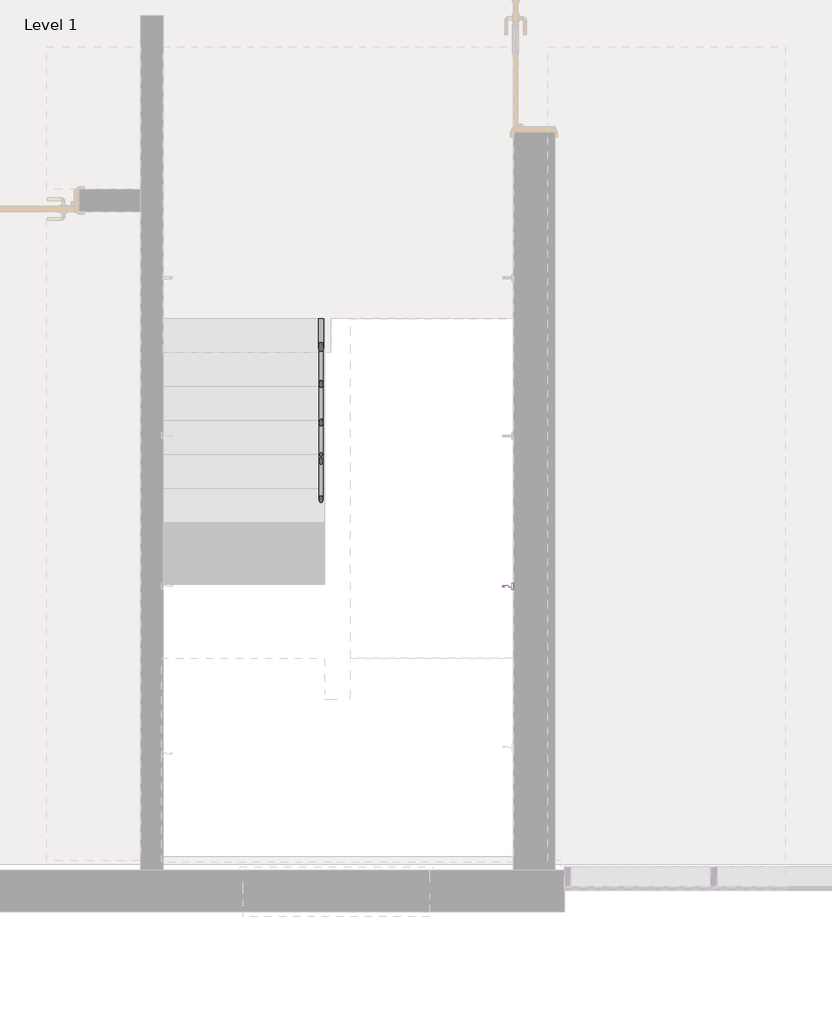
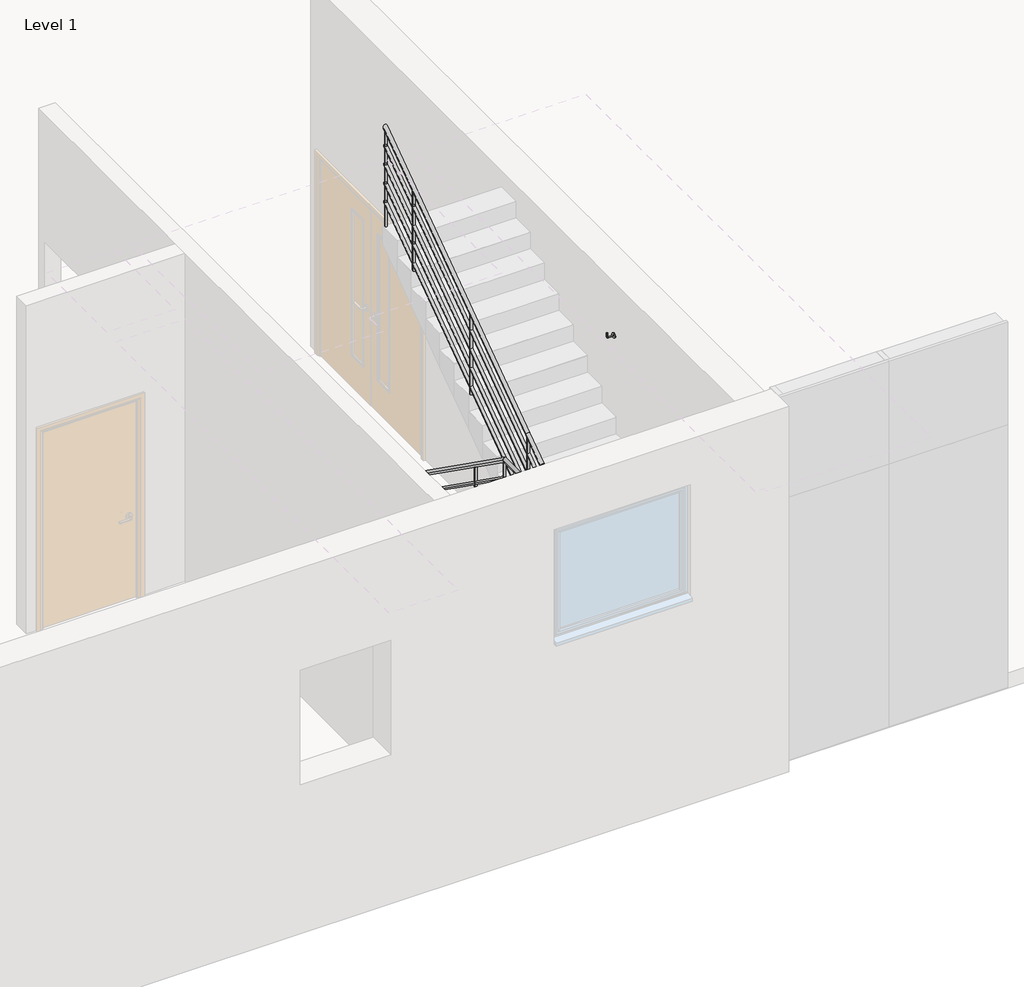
# One storey, part 9 of 12: 1 proxy, 1 railing.
"""IFC4 building model written with IfcOpenShell, lengths in millimetres."""

from ifc_helpers import new_model, si_unit, point, frame, frame_2d, origin, place, context, project, spatial, circle_curve, ellipse_curve, trimmed, segment, composite_curve, outline, extrude, transform, mapped, element, save
from ifc_brep_helpers import plane_surface, cylinder_surface, advanced_brep
from components import support_metal_circular_support_metal_circular_016e83f0

model = new_model("IFC4")

# Units and contexts
model_context = context("Model", 3, world=origin())
ifc_project = project(units=[si_unit("LENGTHUNIT", "METRE", prefix="MILLI")], contexts=[model_context])

# Site, building, storey
site = spatial("IfcSite", under=ifc_project)
building = spatial("IfcBuilding", under=site)
storey = spatial("IfcBuildingStorey", under=building, Name="Level 1", Elevation=3900.0)

# Proxy
placement = place(None, origin())
support_metal_circular_support_metal_circular_shape = support_metal_circular_support_metal_circular_016e83f0(model_context)
element("IfcBuildingElementProxy", 1, Name="Support - Metal - Circular : Support - Metal - Circular", ObjectType="Support - Metal - Circular : Support - Metal - Circular", at=placement, inside=storey, context=model_context, shape_type="MappedRepresentation", body=[
    mapped(support_metal_circular_support_metal_circular_shape, transform((7761.8000024, 2330.7111848, 7286.0952038), x_axis=(0.0, -1.0, 0.0), y_axis=(1.0, 0.0, 0.0), z_axis=(0.0, 0.0, 1.0))),
])

# Railing
element("IfcRailing", 2, ObjectType="900mm_Pipe", at=placement, inside=storey, context=model_context, shape_type="SolidModel", body=[
    advanced_brep(
    [(6401.8000025, 4300.0, 4952.7548977), (6441.8000025, 4300.0, 4952.7548977), (6401.8000025, 1793.6287019, 6730.0), (6441.8000025, 1793.6287019, 6730.0), (6401.8000025, 1454.6, 6730.0), (6441.8000025, 1494.6, 6730.0), (6682.6000026, 1454.6, 6730.0), (6642.6000026, 1494.6, 6730.0), (6682.6000026, 1556.3712981, 6730.0), (6642.6000026, 1556.3712981, 6730.0), (6682.6000026, 1811.5685755, 6910.9580695), (6642.6000026, 1811.5685755, 6910.9580695), (6682.6000026, 4300.0, 8675.4821704), (6642.6000026, 4300.0, 8675.4821704)],
    [
        (0, 1, ellipse_curve(frame((6421.8000025, 4300.0, 4952.7548977), z_axis=(0.0, 1.0, 0.0), x_axis=(0.0, 0.0, -1.0)), 24.5178296, 20.0)),
        (1, 0, ellipse_curve(frame((6421.8000025, 4300.0, 4952.7548977), z_axis=(0.0, 1.0, 0.0), x_axis=(0.0, 0.0, -1.0)), 24.5178296, 20.0)),
        (0, 2),
        (2, 3, ellipse_curve(frame((6421.8000025, 1793.6287019, 6730.0), z_axis=(0.0, 0.9528202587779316, -0.30353509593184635), x_axis=(0.0, -0.30353509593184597, -0.9528202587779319)), 20.9903178, 20.0)),
        (3, 1),
        (3, 2, ellipse_curve(frame((6421.8000025, 1793.6287019, 6730.0), z_axis=(0.0, 0.9528202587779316, -0.30353509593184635), x_axis=(0.0, -0.30353509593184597, -0.9528202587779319)), 20.9903178, 20.0)),
        (2, 4),
        (4, 5, ellipse_curve(frame((6421.8000025, 1474.6, 6730.0), z_axis=(-0.7071067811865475, 0.7071067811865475, 0.0), x_axis=(0.7071067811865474, 0.7071067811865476, 0.0)), 28.2842712, 20.0)),
        (5, 3),
        (5, 4, ellipse_curve(frame((6421.8000025, 1474.6, 6730.0), z_axis=(-0.7071067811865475, 0.7071067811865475, 0.0), x_axis=(0.7071067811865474, 0.7071067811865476, 0.0)), 28.2842712, 20.0)),
        (4, 6),
        (6, 7, ellipse_curve(frame((6662.6000026, 1474.6, 6730.0), z_axis=(-0.7071067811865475, -0.7071067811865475, 0.0), x_axis=(-0.7071067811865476, 0.7071067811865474, 0.0)), 28.2842712, 20.0)),
        (7, 5),
        (7, 6, ellipse_curve(frame((6662.6000026, 1474.6, 6730.0), z_axis=(-0.7071067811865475, -0.7071067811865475, 0.0), x_axis=(-0.7071067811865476, 0.7071067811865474, 0.0)), 28.2842712, 20.0)),
        (6, 8),
        (8, 9, ellipse_curve(frame((6662.6000026, 1556.3712981, 6730.0), z_axis=(0.0, -0.9528202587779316, -0.3035350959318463), x_axis=(0.0, -0.3035350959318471, 0.9528202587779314)), 20.9903178, 20.0)),
        (9, 7),
        (9, 8, ellipse_curve(frame((6662.6000026, 1556.3712981, 6730.0), z_axis=(0.0, -0.9528202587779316, -0.3035350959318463), x_axis=(0.0, -0.3035350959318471, 0.9528202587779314)), 20.9903178, 20.0)),
        (8, 10),
        (10, 11, circle_curve(frame((6662.6000026, 1811.5685755, 6910.9580695), z_axis=(0.0, -0.8157328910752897, -0.5784287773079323), x_axis=(-1.0, 0.0, 0.0)), 20.0)),
        (11, 9),
        (11, 10, circle_curve(frame((6662.6000026, 1811.5685755, 6910.9580695), z_axis=(0.0, -0.8157328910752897, -0.5784287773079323), x_axis=(-1.0, 0.0, 0.0)), 20.0)),
        (12, 13, ellipse_curve(frame((6662.6000026, 4300.0, 8675.4821704), z_axis=(0.0, 1.0, 0.0), x_axis=(0.0, 0.0, -1.0)), 24.5178296, 20.0)),
        (13, 12, ellipse_curve(frame((6662.6000026, 4300.0, 8675.4821704), z_axis=(0.0, 1.0, 0.0), x_axis=(0.0, 0.0, -1.0)), 24.5178296, 20.0)),
        (10, 12),
        (13, 11),
    ],
    [
        plane_surface(frame((6421.8000025, 4300.0, 4977.2727273), z_axis=(0.0, 1.0, 0.0), x_axis=(0.0, 0.0, -1.0))),
        cylinder_surface(frame((6421.8000025, 4288.4314245, 4960.9580695), z_axis=(0.0, 0.8157328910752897, -0.5784287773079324), x_axis=(1.0, 0.0, 0.0)), 20.0),
        cylinder_surface(frame((6421.8000025, 1800.0, 6730.0), z_axis=(0.0, 1.0, 0.0), x_axis=(1.0, 0.0, 0.0)), 20.0),
        cylinder_surface(frame((6421.8000025, 1474.6, 6730.0), z_axis=(-1.0, 0.0, 0.0), x_axis=(0.0, 1.0, 0.0)), 20.0),
        cylinder_surface(frame((6662.6000026, 1474.6, 6730.0), z_axis=(0.0, -1.0, 0.0), x_axis=(-1.0, 0.0, 0.0)), 20.0),
        cylinder_surface(frame((6662.6000026, 1561.5685755, 6733.6853422), z_axis=(0.0, -0.8157328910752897, -0.5784287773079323), x_axis=(-1.0, 0.0, 0.0)), 20.0),
        plane_surface(frame((6662.6000026, 4300.0, 8700.0), z_axis=(0.0, 1.0, 0.0), x_axis=(0.0, 0.0, 1.0))),
        cylinder_surface(frame((6662.6000026, 1811.5685755, 6910.9580695), z_axis=(0.0, -0.8157328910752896, -0.5784287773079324), x_axis=(-1.0, 0.0, 0.0)), 20.0),
    ],
    [
        (0, [[1, 2]]),
        (1, [[-1, 3, 4, 5]]),
        (1, [[-2, -5, 6, -3]]),
        (2, [[-4, 7, 8, 9]]),
        (2, [[-6, -9, 10, -7]]),
        (3, [[-8, 11, 12, 13]]),
        (3, [[-10, -13, 14, -11]]),
        (4, [[-12, 15, 16, 17]]),
        (4, [[-14, -17, 18, -15]]),
        (5, [[-16, 19, 20, 21]]),
        (5, [[-18, -21, 22, -19]]),
        (6, [[23, 24]]),
        (7, [[-20, 25, -24, 26]]),
        (7, [[-22, -26, -23, -25]]),
    ],
),
    advanced_brep(
    [(6406.8000025, 4300.0, 4758.8843551), (6436.8000025, 4300.0, 4758.8843551), (6406.8000025, 1800.0, 6531.6116278), (6436.8000025, 1800.0, 6531.6116278)],
    [
        (0, 1, ellipse_curve(frame((6421.8000025, 4300.0, 4758.8843551), z_axis=(0.0, 1.0, 0.0), x_axis=(0.0, 0.0, -1.0)), 18.3883722, 15.0)),
        (1, 0, ellipse_curve(frame((6421.8000025, 4300.0, 4758.8843551), z_axis=(0.0, 1.0, 0.0), x_axis=(0.0, 0.0, -1.0)), 18.3883722, 15.0)),
        (2, 3, ellipse_curve(frame((6421.8000025, 1800.0, 6531.6116278), z_axis=(0.0, -1.0, 0.0), x_axis=(0.0, 0.0, -1.0)), 18.3883722, 15.0)),
        (3, 2, ellipse_curve(frame((6421.8000025, 1800.0, 6531.6116278), z_axis=(0.0, -1.0, 0.0), x_axis=(0.0, 0.0, -1.0)), 18.3883722, 15.0)),
        (0, 2),
        (3, 1),
    ],
    [
        plane_surface(frame((6421.8000025, 4300.0, 4777.2727273), z_axis=(0.0, 1.0, 0.0), x_axis=(0.0, 0.0, -1.0))),
        plane_surface(frame((6421.8000025, 1800.0, 6550.0), z_axis=(0.0, -1.0, 0.0), x_axis=(0.0, 0.0, -1.0))),
        cylinder_surface(frame((6421.8000025, 4291.3235683, 4765.0367339), z_axis=(0.0, 0.8157328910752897, -0.5784287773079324), x_axis=(1.0, 0.0, 0.0)), 15.0),
    ],
    [
        (0, [[1, 2]]),
        (1, [[3, 4]]),
        (2, [[-1, 5, -4, 6]]),
        (2, [[-2, -6, -3, -5]]),
    ],
),
    advanced_brep(
    [(6406.8000025, 1800.0, 6535.0), (6436.8000025, 1800.0, 6535.0), (6406.8000025, 1489.6, 6535.0), (6436.8000025, 1489.6, 6535.0)],
    [
        (0, 1, circle_curve(frame((6421.8000025, 1800.0, 6535.0), z_axis=(0.0, 1.0, 0.0), x_axis=(1.0, 0.0, 0.0)), 15.0)),
        (1, 0, circle_curve(frame((6421.8000025, 1800.0, 6535.0), z_axis=(0.0, 1.0, 0.0), x_axis=(1.0, 0.0, 0.0)), 15.0)),
        (2, 3, circle_curve(frame((6421.8000025, 1489.6, 6535.0), z_axis=(0.0, -1.0, 0.0), x_axis=(1.0, 0.0, 0.0)), 15.0)),
        (3, 2, circle_curve(frame((6421.8000025, 1489.6, 6535.0), z_axis=(0.0, -1.0, 0.0), x_axis=(1.0, 0.0, 0.0)), 15.0)),
        (0, 2),
        (3, 1),
    ],
    [
        plane_surface(frame((6421.8000025, 1800.0, 6550.0), z_axis=(0.0, 1.0, 0.0), x_axis=(0.0, 0.0, -1.0))),
        plane_surface(frame((6421.8000025, 1489.6, 6550.0), z_axis=(0.0, -1.0, 0.0), x_axis=(0.0, 0.0, -1.0))),
        cylinder_surface(frame((6421.8000025, 1800.0, 6535.0), z_axis=(0.0, 1.0, 0.0), x_axis=(1.0, 0.0, 0.0)), 15.0),
    ],
    [
        (0, [[1, 2]]),
        (1, [[3, 4]]),
        (2, [[-1, 5, -4, 6]]),
        (2, [[-2, -6, -3, -5]]),
    ],
),
    advanced_brep(
    [(6406.8000025, 1459.6, 6535.0), (6406.8000025, 1489.6, 6535.0), (6647.6000026, 1459.6, 6535.0), (6647.6000026, 1489.6, 6535.0)],
    [
        (0, 1, circle_curve(frame((6406.8000025, 1474.6, 6535.0), z_axis=(-1.0, 0.0, 0.0), x_axis=(0.0, 1.0, 0.0)), 15.0)),
        (1, 0, circle_curve(frame((6406.8000025, 1474.6, 6535.0), z_axis=(-1.0, 0.0, 0.0), x_axis=(0.0, 1.0, 0.0)), 15.0)),
        (2, 3, circle_curve(frame((6647.6000026, 1474.6, 6535.0), z_axis=(1.0, 0.0, 0.0), x_axis=(0.0, 1.0, 0.0)), 15.0)),
        (3, 2, circle_curve(frame((6647.6000026, 1474.6, 6535.0), z_axis=(1.0, 0.0, 0.0), x_axis=(0.0, 1.0, 0.0)), 15.0)),
        (0, 2),
        (3, 1),
    ],
    [
        plane_surface(frame((6406.8000025, 1474.6, 6550.0), z_axis=(-1.0, 0.0, 0.0), x_axis=(0.0, 1.0, 0.0))),
        plane_surface(frame((6647.6000026, 1474.6, 6550.0), z_axis=(1.0, 0.0, 0.0), x_axis=(0.0, 1.0, 0.0))),
        cylinder_surface(frame((6406.8000025, 1474.6, 6535.0), z_axis=(-1.0, 0.0, 0.0), x_axis=(0.0, 1.0, 0.0)), 15.0),
    ],
    [
        (0, [[1, 2]]),
        (1, [[3, 4]]),
        (2, [[-1, 5, -4, 6]]),
        (2, [[-2, -6, -3, -5]]),
    ],
),
    advanced_brep(
    [(6677.6000026, 1459.6, 6535.0), (6647.6000026, 1459.6, 6535.0), (6677.6000026, 1554.7784736, 6535.0), (6647.6000026, 1554.7784736, 6535.0), (6677.6000026, 1800.0, 6708.8843551), (6647.6000026, 1800.0, 6708.8843551)],
    [
        (0, 1, circle_curve(frame((6662.6000026, 1459.6, 6535.0), z_axis=(0.0, -1.0, 0.0), x_axis=(-1.0, 0.0, 0.0)), 15.0)),
        (1, 0, circle_curve(frame((6662.6000026, 1459.6, 6535.0), z_axis=(0.0, -1.0, 0.0), x_axis=(-1.0, 0.0, 0.0)), 15.0)),
        (0, 2),
        (2, 3, ellipse_curve(frame((6662.6000026, 1554.7784736, 6535.0), z_axis=(0.0, -0.9528202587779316, -0.3035350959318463), x_axis=(0.0, -0.3035350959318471, 0.9528202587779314)), 15.7427383, 15.0)),
        (3, 1),
        (3, 2, ellipse_curve(frame((6662.6000026, 1554.7784736, 6535.0), z_axis=(0.0, -0.9528202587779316, -0.3035350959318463), x_axis=(0.0, -0.3035350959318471, 0.9528202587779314)), 15.7427383, 15.0)),
        (4, 5, ellipse_curve(frame((6662.6000026, 1800.0, 6708.8843551), z_axis=(0.0, 1.0, 0.0), x_axis=(0.0, 0.0, -1.0)), 18.3883722, 15.0)),
        (5, 4, ellipse_curve(frame((6662.6000026, 1800.0, 6708.8843551), z_axis=(0.0, 1.0, 0.0), x_axis=(0.0, 0.0, -1.0)), 18.3883722, 15.0)),
        (2, 4),
        (5, 3),
    ],
    [
        plane_surface(frame((6662.6000026, 1459.6, 6550.0), z_axis=(0.0, -1.0, 0.0), x_axis=(0.0, 0.0, 1.0))),
        cylinder_surface(frame((6662.6000026, 1459.6, 6535.0), z_axis=(0.0, -1.0, 0.0), x_axis=(-1.0, 0.0, 0.0)), 15.0),
        plane_surface(frame((6662.6000026, 1800.0, 6727.2727273), z_axis=(0.0, 1.0, 0.0), x_axis=(0.0, 0.0, 1.0))),
        cylinder_surface(frame((6662.6000026, 1558.6764317, 6537.7640066), z_axis=(0.0, -0.8157328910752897, -0.5784287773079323), x_axis=(-1.0, 0.0, 0.0)), 15.0),
    ],
    [
        (0, [[1, 2]]),
        (1, [[-1, 3, 4, 5]]),
        (1, [[-2, -5, 6, -3]]),
        (2, [[7, 8]]),
        (3, [[-4, 9, -8, 10]]),
        (3, [[-6, -10, -7, -9]]),
    ],
),
    advanced_brep(
    [(6677.6000026, 1800.0, 6708.8843551), (6647.6000026, 1800.0, 6708.8843551), (6677.6000026, 4300.0, 8481.6116278), (6647.6000026, 4300.0, 8481.6116278)],
    [
        (0, 1, ellipse_curve(frame((6662.6000026, 1800.0, 6708.8843551), z_axis=(0.0, -1.0, 0.0), x_axis=(0.0, 0.0, -1.0)), 18.3883722, 15.0)),
        (1, 0, ellipse_curve(frame((6662.6000026, 1800.0, 6708.8843551), z_axis=(0.0, -1.0, 0.0), x_axis=(0.0, 0.0, -1.0)), 18.3883722, 15.0)),
        (2, 3, ellipse_curve(frame((6662.6000026, 4300.0, 8481.6116278), z_axis=(0.0, 1.0, 0.0), x_axis=(0.0, 0.0, -1.0)), 18.3883722, 15.0)),
        (3, 2, ellipse_curve(frame((6662.6000026, 4300.0, 8481.6116278), z_axis=(0.0, 1.0, 0.0), x_axis=(0.0, 0.0, -1.0)), 18.3883722, 15.0)),
        (0, 2),
        (3, 1),
    ],
    [
        plane_surface(frame((6662.6000026, 1800.0, 6727.2727273), z_axis=(0.0, -1.0, 0.0), x_axis=(0.0, 0.0, 1.0))),
        plane_surface(frame((6662.6000026, 4300.0, 8500.0), z_axis=(0.0, 1.0, 0.0), x_axis=(0.0, 0.0, 1.0))),
        cylinder_surface(frame((6662.6000026, 1808.6764317, 6715.0367339), z_axis=(0.0, -0.8157328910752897, -0.5784287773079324), x_axis=(-1.0, 0.0, 0.0)), 15.0),
    ],
    [
        (0, [[1, 2]]),
        (1, [[3, 4]]),
        (2, [[-1, 5, -4, 6]]),
        (2, [[-2, -6, -3, -5]]),
    ],
),
    advanced_brep(
    [(6406.8000025, 4300.0, 4558.8843551), (6436.8000025, 4300.0, 4558.8843551), (6406.8000025, 1800.0, 6331.6116278), (6436.8000025, 1800.0, 6331.6116278)],
    [
        (0, 1, ellipse_curve(frame((6421.8000025, 4300.0, 4558.8843551), z_axis=(0.0, 1.0, 0.0), x_axis=(0.0, 0.0, -1.0)), 18.3883722, 15.0)),
        (1, 0, ellipse_curve(frame((6421.8000025, 4300.0, 4558.8843551), z_axis=(0.0, 1.0, 0.0), x_axis=(0.0, 0.0, -1.0)), 18.3883722, 15.0)),
        (2, 3, ellipse_curve(frame((6421.8000025, 1800.0, 6331.6116278), z_axis=(0.0, -1.0, 0.0), x_axis=(0.0, 0.0, -1.0)), 18.3883722, 15.0)),
        (3, 2, ellipse_curve(frame((6421.8000025, 1800.0, 6331.6116278), z_axis=(0.0, -1.0, 0.0), x_axis=(0.0, 0.0, -1.0)), 18.3883722, 15.0)),
        (0, 2),
        (3, 1),
    ],
    [
        plane_surface(frame((6421.8000025, 4300.0, 4577.2727273), z_axis=(0.0, 1.0, 0.0), x_axis=(0.0, 0.0, -1.0))),
        plane_surface(frame((6421.8000025, 1800.0, 6350.0), z_axis=(0.0, -1.0, 0.0), x_axis=(0.0, 0.0, -1.0))),
        cylinder_surface(frame((6421.8000025, 4291.3235683, 4565.0367339), z_axis=(0.0, 0.8157328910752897, -0.5784287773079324), x_axis=(1.0, 0.0, 0.0)), 15.0),
    ],
    [
        (0, [[1, 2]]),
        (1, [[3, 4]]),
        (2, [[-1, 5, -4, 6]]),
        (2, [[-2, -6, -3, -5]]),
    ],
),
    advanced_brep(
    [(6406.8000025, 1800.0, 6335.0), (6436.8000025, 1800.0, 6335.0), (6406.8000025, 1489.6, 6335.0), (6436.8000025, 1489.6, 6335.0)],
    [
        (0, 1, circle_curve(frame((6421.8000025, 1800.0, 6335.0), z_axis=(0.0, 1.0, 0.0), x_axis=(1.0, 0.0, 0.0)), 15.0)),
        (1, 0, circle_curve(frame((6421.8000025, 1800.0, 6335.0), z_axis=(0.0, 1.0, 0.0), x_axis=(1.0, 0.0, 0.0)), 15.0)),
        (2, 3, circle_curve(frame((6421.8000025, 1489.6, 6335.0), z_axis=(0.0, -1.0, 0.0), x_axis=(1.0, 0.0, 0.0)), 15.0)),
        (3, 2, circle_curve(frame((6421.8000025, 1489.6, 6335.0), z_axis=(0.0, -1.0, 0.0), x_axis=(1.0, 0.0, 0.0)), 15.0)),
        (0, 2),
        (3, 1),
    ],
    [
        plane_surface(frame((6421.8000025, 1800.0, 6350.0), z_axis=(0.0, 1.0, 0.0), x_axis=(0.0, 0.0, -1.0))),
        plane_surface(frame((6421.8000025, 1489.6, 6350.0), z_axis=(0.0, -1.0, 0.0), x_axis=(0.0, 0.0, -1.0))),
        cylinder_surface(frame((6421.8000025, 1800.0, 6335.0), z_axis=(0.0, 1.0, 0.0), x_axis=(1.0, 0.0, 0.0)), 15.0),
    ],
    [
        (0, [[1, 2]]),
        (1, [[3, 4]]),
        (2, [[-1, 5, -4, 6]]),
        (2, [[-2, -6, -3, -5]]),
    ],
),
    advanced_brep(
    [(6406.8000025, 1459.6, 6335.0), (6406.8000025, 1489.6, 6335.0), (6647.6000026, 1459.6, 6335.0), (6647.6000026, 1489.6, 6335.0)],
    [
        (0, 1, circle_curve(frame((6406.8000025, 1474.6, 6335.0), z_axis=(-1.0, 0.0, 0.0), x_axis=(0.0, 1.0, 0.0)), 15.0)),
        (1, 0, circle_curve(frame((6406.8000025, 1474.6, 6335.0), z_axis=(-1.0, 0.0, 0.0), x_axis=(0.0, 1.0, 0.0)), 15.0)),
        (2, 3, circle_curve(frame((6647.6000026, 1474.6, 6335.0), z_axis=(1.0, 0.0, 0.0), x_axis=(0.0, 1.0, 0.0)), 15.0)),
        (3, 2, circle_curve(frame((6647.6000026, 1474.6, 6335.0), z_axis=(1.0, 0.0, 0.0), x_axis=(0.0, 1.0, 0.0)), 15.0)),
        (0, 2),
        (3, 1),
    ],
    [
        plane_surface(frame((6406.8000025, 1474.6, 6350.0), z_axis=(-1.0, 0.0, 0.0), x_axis=(0.0, 1.0, 0.0))),
        plane_surface(frame((6647.6000026, 1474.6, 6350.0), z_axis=(1.0, 0.0, 0.0), x_axis=(0.0, 1.0, 0.0))),
        cylinder_surface(frame((6406.8000025, 1474.6, 6335.0), z_axis=(-1.0, 0.0, 0.0), x_axis=(0.0, 1.0, 0.0)), 15.0),
    ],
    [
        (0, [[1, 2]]),
        (1, [[3, 4]]),
        (2, [[-1, 5, -4, 6]]),
        (2, [[-2, -6, -3, -5]]),
    ],
),
    advanced_brep(
    [(6677.6000026, 1459.6, 6335.0), (6647.6000026, 1459.6, 6335.0), (6677.6000026, 1554.7784736, 6335.0), (6647.6000026, 1554.7784736, 6335.0), (6677.6000026, 1800.0, 6508.8843551), (6647.6000026, 1800.0, 6508.8843551)],
    [
        (0, 1, circle_curve(frame((6662.6000026, 1459.6, 6335.0), z_axis=(0.0, -1.0, 0.0), x_axis=(-1.0, 0.0, 0.0)), 15.0)),
        (1, 0, circle_curve(frame((6662.6000026, 1459.6, 6335.0), z_axis=(0.0, -1.0, 0.0), x_axis=(-1.0, 0.0, 0.0)), 15.0)),
        (0, 2),
        (2, 3, ellipse_curve(frame((6662.6000026, 1554.7784736, 6335.0), z_axis=(0.0, -0.9528202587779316, -0.3035350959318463), x_axis=(0.0, -0.3035350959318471, 0.9528202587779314)), 15.7427383, 15.0)),
        (3, 1),
        (3, 2, ellipse_curve(frame((6662.6000026, 1554.7784736, 6335.0), z_axis=(0.0, -0.9528202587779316, -0.3035350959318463), x_axis=(0.0, -0.3035350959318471, 0.9528202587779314)), 15.7427383, 15.0)),
        (4, 5, ellipse_curve(frame((6662.6000026, 1800.0, 6508.8843551), z_axis=(0.0, 1.0, 0.0), x_axis=(0.0, 0.0, -1.0)), 18.3883722, 15.0)),
        (5, 4, ellipse_curve(frame((6662.6000026, 1800.0, 6508.8843551), z_axis=(0.0, 1.0, 0.0), x_axis=(0.0, 0.0, -1.0)), 18.3883722, 15.0)),
        (2, 4),
        (5, 3),
    ],
    [
        plane_surface(frame((6662.6000026, 1459.6, 6350.0), z_axis=(0.0, -1.0, 0.0), x_axis=(0.0, 0.0, 1.0))),
        cylinder_surface(frame((6662.6000026, 1459.6, 6335.0), z_axis=(0.0, -1.0, 0.0), x_axis=(-1.0, 0.0, 0.0)), 15.0),
        plane_surface(frame((6662.6000026, 1800.0, 6527.2727273), z_axis=(0.0, 1.0, 0.0), x_axis=(0.0, 0.0, 1.0))),
        cylinder_surface(frame((6662.6000026, 1558.6764317, 6337.7640066), z_axis=(0.0, -0.8157328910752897, -0.5784287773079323), x_axis=(-1.0, 0.0, 0.0)), 15.0),
    ],
    [
        (0, [[1, 2]]),
        (1, [[-1, 3, 4, 5]]),
        (1, [[-2, -5, 6, -3]]),
        (2, [[7, 8]]),
        (3, [[-4, 9, -8, 10]]),
        (3, [[-6, -10, -7, -9]]),
    ],
),
    advanced_brep(
    [(6677.6000026, 1800.0, 6508.8843551), (6647.6000026, 1800.0, 6508.8843551), (6677.6000026, 4300.0, 8281.6116278), (6647.6000026, 4300.0, 8281.6116278)],
    [
        (0, 1, ellipse_curve(frame((6662.6000026, 1800.0, 6508.8843551), z_axis=(0.0, -1.0, 0.0), x_axis=(0.0, 0.0, -1.0)), 18.3883722, 15.0)),
        (1, 0, ellipse_curve(frame((6662.6000026, 1800.0, 6508.8843551), z_axis=(0.0, -1.0, 0.0), x_axis=(0.0, 0.0, -1.0)), 18.3883722, 15.0)),
        (2, 3, ellipse_curve(frame((6662.6000026, 4300.0, 8281.6116278), z_axis=(0.0, 1.0, 0.0), x_axis=(0.0, 0.0, -1.0)), 18.3883722, 15.0)),
        (3, 2, ellipse_curve(frame((6662.6000026, 4300.0, 8281.6116278), z_axis=(0.0, 1.0, 0.0), x_axis=(0.0, 0.0, -1.0)), 18.3883722, 15.0)),
        (0, 2),
        (3, 1),
    ],
    [
        plane_surface(frame((6662.6000026, 1800.0, 6527.2727273), z_axis=(0.0, -1.0, 0.0), x_axis=(0.0, 0.0, 1.0))),
        plane_surface(frame((6662.6000026, 4300.0, 8300.0), z_axis=(0.0, 1.0, 0.0), x_axis=(0.0, 0.0, 1.0))),
        cylinder_surface(frame((6662.6000026, 1808.6764317, 6515.0367339), z_axis=(0.0, -0.8157328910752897, -0.5784287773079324), x_axis=(-1.0, 0.0, 0.0)), 15.0),
    ],
    [
        (0, [[1, 2]]),
        (1, [[3, 4]]),
        (2, [[-1, 5, -4, 6]]),
        (2, [[-2, -6, -3, -5]]),
    ],
),
    advanced_brep(
    [(6406.8000025, 4300.0, 4358.8843551), (6436.8000025, 4300.0, 4358.8843551), (6406.8000025, 1800.0, 6131.6116278), (6436.8000025, 1800.0, 6131.6116278)],
    [
        (0, 1, ellipse_curve(frame((6421.8000025, 4300.0, 4358.8843551), z_axis=(0.0, 1.0, 0.0), x_axis=(0.0, 0.0, -1.0)), 18.3883722, 15.0)),
        (1, 0, ellipse_curve(frame((6421.8000025, 4300.0, 4358.8843551), z_axis=(0.0, 1.0, 0.0), x_axis=(0.0, 0.0, -1.0)), 18.3883722, 15.0)),
        (2, 3, ellipse_curve(frame((6421.8000025, 1800.0, 6131.6116278), z_axis=(0.0, -1.0, 0.0), x_axis=(0.0, 0.0, -1.0)), 18.3883722, 15.0)),
        (3, 2, ellipse_curve(frame((6421.8000025, 1800.0, 6131.6116278), z_axis=(0.0, -1.0, 0.0), x_axis=(0.0, 0.0, -1.0)), 18.3883722, 15.0)),
        (0, 2),
        (3, 1),
    ],
    [
        plane_surface(frame((6421.8000025, 4300.0, 4377.2727273), z_axis=(0.0, 1.0, 0.0), x_axis=(0.0, 0.0, -1.0))),
        plane_surface(frame((6421.8000025, 1800.0, 6150.0), z_axis=(0.0, -1.0, 0.0), x_axis=(0.0, 0.0, -1.0))),
        cylinder_surface(frame((6421.8000025, 4291.3235683, 4365.0367339), z_axis=(0.0, 0.8157328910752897, -0.5784287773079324), x_axis=(1.0, 0.0, 0.0)), 15.0),
    ],
    [
        (0, [[1, 2]]),
        (1, [[3, 4]]),
        (2, [[-1, 5, -4, 6]]),
        (2, [[-2, -6, -3, -5]]),
    ],
),
    advanced_brep(
    [(6406.8000025, 1800.0, 6135.0), (6436.8000025, 1800.0, 6135.0), (6406.8000025, 1489.6, 6135.0), (6436.8000025, 1489.6, 6135.0)],
    [
        (0, 1, circle_curve(frame((6421.8000025, 1800.0, 6135.0), z_axis=(0.0, 1.0, 0.0), x_axis=(1.0, 0.0, 0.0)), 15.0)),
        (1, 0, circle_curve(frame((6421.8000025, 1800.0, 6135.0), z_axis=(0.0, 1.0, 0.0), x_axis=(1.0, 0.0, 0.0)), 15.0)),
        (2, 3, circle_curve(frame((6421.8000025, 1489.6, 6135.0), z_axis=(0.0, -1.0, 0.0), x_axis=(1.0, 0.0, 0.0)), 15.0)),
        (3, 2, circle_curve(frame((6421.8000025, 1489.6, 6135.0), z_axis=(0.0, -1.0, 0.0), x_axis=(1.0, 0.0, 0.0)), 15.0)),
        (0, 2),
        (3, 1),
    ],
    [
        plane_surface(frame((6421.8000025, 1800.0, 6150.0), z_axis=(0.0, 1.0, 0.0), x_axis=(0.0, 0.0, -1.0))),
        plane_surface(frame((6421.8000025, 1489.6, 6150.0), z_axis=(0.0, -1.0, 0.0), x_axis=(0.0, 0.0, -1.0))),
        cylinder_surface(frame((6421.8000025, 1800.0, 6135.0), z_axis=(0.0, 1.0, 0.0), x_axis=(1.0, 0.0, 0.0)), 15.0),
    ],
    [
        (0, [[1, 2]]),
        (1, [[3, 4]]),
        (2, [[-1, 5, -4, 6]]),
        (2, [[-2, -6, -3, -5]]),
    ],
),
    advanced_brep(
    [(6406.8000025, 1459.6, 6135.0), (6406.8000025, 1489.6, 6135.0), (6647.6000026, 1459.6, 6135.0), (6647.6000026, 1489.6, 6135.0)],
    [
        (0, 1, circle_curve(frame((6406.8000025, 1474.6, 6135.0), z_axis=(-1.0, 0.0, 0.0), x_axis=(0.0, 1.0, 0.0)), 15.0)),
        (1, 0, circle_curve(frame((6406.8000025, 1474.6, 6135.0), z_axis=(-1.0, 0.0, 0.0), x_axis=(0.0, 1.0, 0.0)), 15.0)),
        (2, 3, circle_curve(frame((6647.6000026, 1474.6, 6135.0), z_axis=(1.0, 0.0, 0.0), x_axis=(0.0, 1.0, 0.0)), 15.0)),
        (3, 2, circle_curve(frame((6647.6000026, 1474.6, 6135.0), z_axis=(1.0, 0.0, 0.0), x_axis=(0.0, 1.0, 0.0)), 15.0)),
        (0, 2),
        (3, 1),
    ],
    [
        plane_surface(frame((6406.8000025, 1474.6, 6150.0), z_axis=(-1.0, 0.0, 0.0), x_axis=(0.0, 1.0, 0.0))),
        plane_surface(frame((6647.6000026, 1474.6, 6150.0), z_axis=(1.0, 0.0, 0.0), x_axis=(0.0, 1.0, 0.0))),
        cylinder_surface(frame((6406.8000025, 1474.6, 6135.0), z_axis=(-1.0, 0.0, 0.0), x_axis=(0.0, 1.0, 0.0)), 15.0),
    ],
    [
        (0, [[1, 2]]),
        (1, [[3, 4]]),
        (2, [[-1, 5, -4, 6]]),
        (2, [[-2, -6, -3, -5]]),
    ],
),
    advanced_brep(
    [(6677.6000026, 1459.6, 6135.0), (6647.6000026, 1459.6, 6135.0), (6677.6000026, 1554.7784736, 6135.0), (6647.6000026, 1554.7784736, 6135.0), (6677.6000026, 1800.0, 6308.8843551), (6647.6000026, 1800.0, 6308.8843551)],
    [
        (0, 1, circle_curve(frame((6662.6000026, 1459.6, 6135.0), z_axis=(0.0, -1.0, 0.0), x_axis=(-1.0, 0.0, 0.0)), 15.0)),
        (1, 0, circle_curve(frame((6662.6000026, 1459.6, 6135.0), z_axis=(0.0, -1.0, 0.0), x_axis=(-1.0, 0.0, 0.0)), 15.0)),
        (0, 2),
        (2, 3, ellipse_curve(frame((6662.6000026, 1554.7784736, 6135.0), z_axis=(0.0, -0.9528202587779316, -0.3035350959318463), x_axis=(0.0, -0.3035350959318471, 0.9528202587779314)), 15.7427383, 15.0)),
        (3, 1),
        (3, 2, ellipse_curve(frame((6662.6000026, 1554.7784736, 6135.0), z_axis=(0.0, -0.9528202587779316, -0.3035350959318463), x_axis=(0.0, -0.3035350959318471, 0.9528202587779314)), 15.7427383, 15.0)),
        (4, 5, ellipse_curve(frame((6662.6000026, 1800.0, 6308.8843551), z_axis=(0.0, 1.0, 0.0), x_axis=(0.0, 0.0, -1.0)), 18.3883722, 15.0)),
        (5, 4, ellipse_curve(frame((6662.6000026, 1800.0, 6308.8843551), z_axis=(0.0, 1.0, 0.0), x_axis=(0.0, 0.0, -1.0)), 18.3883722, 15.0)),
        (2, 4),
        (5, 3),
    ],
    [
        plane_surface(frame((6662.6000026, 1459.6, 6150.0), z_axis=(0.0, -1.0, 0.0), x_axis=(0.0, 0.0, 1.0))),
        cylinder_surface(frame((6662.6000026, 1459.6, 6135.0), z_axis=(0.0, -1.0, 0.0), x_axis=(-1.0, 0.0, 0.0)), 15.0),
        plane_surface(frame((6662.6000026, 1800.0, 6327.2727273), z_axis=(0.0, 1.0, 0.0), x_axis=(0.0, 0.0, 1.0))),
        cylinder_surface(frame((6662.6000026, 1558.6764317, 6137.7640066), z_axis=(0.0, -0.8157328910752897, -0.5784287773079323), x_axis=(-1.0, 0.0, 0.0)), 15.0),
    ],
    [
        (0, [[1, 2]]),
        (1, [[-1, 3, 4, 5]]),
        (1, [[-2, -5, 6, -3]]),
        (2, [[7, 8]]),
        (3, [[-4, 9, -8, 10]]),
        (3, [[-6, -10, -7, -9]]),
    ],
),
    advanced_brep(
    [(6677.6000026, 1800.0, 6308.8843551), (6647.6000026, 1800.0, 6308.8843551), (6677.6000026, 4300.0, 8081.6116278), (6647.6000026, 4300.0, 8081.6116278)],
    [
        (0, 1, ellipse_curve(frame((6662.6000026, 1800.0, 6308.8843551), z_axis=(0.0, -1.0, 0.0), x_axis=(0.0, 0.0, -1.0)), 18.3883722, 15.0)),
        (1, 0, ellipse_curve(frame((6662.6000026, 1800.0, 6308.8843551), z_axis=(0.0, -1.0, 0.0), x_axis=(0.0, 0.0, -1.0)), 18.3883722, 15.0)),
        (2, 3, ellipse_curve(frame((6662.6000026, 4300.0, 8081.6116278), z_axis=(0.0, 1.0, 0.0), x_axis=(0.0, 0.0, -1.0)), 18.3883722, 15.0)),
        (3, 2, ellipse_curve(frame((6662.6000026, 4300.0, 8081.6116278), z_axis=(0.0, 1.0, 0.0), x_axis=(0.0, 0.0, -1.0)), 18.3883722, 15.0)),
        (0, 2),
        (3, 1),
    ],
    [
        plane_surface(frame((6662.6000026, 1800.0, 6327.2727273), z_axis=(0.0, -1.0, 0.0), x_axis=(0.0, 0.0, 1.0))),
        plane_surface(frame((6662.6000026, 4300.0, 8100.0), z_axis=(0.0, 1.0, 0.0), x_axis=(0.0, 0.0, 1.0))),
        cylinder_surface(frame((6662.6000026, 1808.6764317, 6315.0367339), z_axis=(0.0, -0.8157328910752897, -0.5784287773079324), x_axis=(-1.0, 0.0, 0.0)), 15.0),
    ],
    [
        (0, [[1, 2]]),
        (1, [[3, 4]]),
        (2, [[-1, 5, -4, 6]]),
        (2, [[-2, -6, -3, -5]]),
    ],
),
    advanced_brep(
    [(6406.8000025, 4300.0, 4158.8843551), (6436.8000025, 4300.0, 4158.8843551), (6406.8000025, 1800.0, 5931.6116278), (6436.8000025, 1800.0, 5931.6116278)],
    [
        (0, 1, ellipse_curve(frame((6421.8000025, 4300.0, 4158.8843551), z_axis=(0.0, 1.0, 0.0), x_axis=(0.0, 0.0, -1.0)), 18.3883722, 15.0)),
        (1, 0, ellipse_curve(frame((6421.8000025, 4300.0, 4158.8843551), z_axis=(0.0, 1.0, 0.0), x_axis=(0.0, 0.0, -1.0)), 18.3883722, 15.0)),
        (2, 3, ellipse_curve(frame((6421.8000025, 1800.0, 5931.6116278), z_axis=(0.0, -1.0, 0.0), x_axis=(0.0, 0.0, -1.0)), 18.3883722, 15.0)),
        (3, 2, ellipse_curve(frame((6421.8000025, 1800.0, 5931.6116278), z_axis=(0.0, -1.0, 0.0), x_axis=(0.0, 0.0, -1.0)), 18.3883722, 15.0)),
        (0, 2),
        (3, 1),
    ],
    [
        plane_surface(frame((6421.8000025, 4300.0, 4177.2727273), z_axis=(0.0, 1.0, 0.0), x_axis=(0.0, 0.0, -1.0))),
        plane_surface(frame((6421.8000025, 1800.0, 5950.0), z_axis=(0.0, -1.0, 0.0), x_axis=(0.0, 0.0, -1.0))),
        cylinder_surface(frame((6421.8000025, 4291.3235683, 4165.0367339), z_axis=(0.0, 0.8157328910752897, -0.5784287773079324), x_axis=(1.0, 0.0, 0.0)), 15.0),
    ],
    [
        (0, [[1, 2]]),
        (1, [[3, 4]]),
        (2, [[-1, 5, -4, 6]]),
        (2, [[-2, -6, -3, -5]]),
    ],
),
    advanced_brep(
    [(6406.8000025, 1800.0, 5935.0), (6436.8000025, 1800.0, 5935.0), (6406.8000025, 1489.6, 5935.0), (6436.8000025, 1489.6, 5935.0)],
    [
        (0, 1, circle_curve(frame((6421.8000025, 1800.0, 5935.0), z_axis=(0.0, 1.0, 0.0), x_axis=(1.0, 0.0, 0.0)), 15.0)),
        (1, 0, circle_curve(frame((6421.8000025, 1800.0, 5935.0), z_axis=(0.0, 1.0, 0.0), x_axis=(1.0, 0.0, 0.0)), 15.0)),
        (2, 3, circle_curve(frame((6421.8000025, 1489.6, 5935.0), z_axis=(0.0, -1.0, 0.0), x_axis=(1.0, 0.0, 0.0)), 15.0)),
        (3, 2, circle_curve(frame((6421.8000025, 1489.6, 5935.0), z_axis=(0.0, -1.0, 0.0), x_axis=(1.0, 0.0, 0.0)), 15.0)),
        (0, 2),
        (3, 1),
    ],
    [
        plane_surface(frame((6421.8000025, 1800.0, 5950.0), z_axis=(0.0, 1.0, 0.0), x_axis=(0.0, 0.0, -1.0))),
        plane_surface(frame((6421.8000025, 1489.6, 5950.0), z_axis=(0.0, -1.0, 0.0), x_axis=(0.0, 0.0, -1.0))),
        cylinder_surface(frame((6421.8000025, 1800.0, 5935.0), z_axis=(0.0, 1.0, 0.0), x_axis=(1.0, 0.0, 0.0)), 15.0),
    ],
    [
        (0, [[1, 2]]),
        (1, [[3, 4]]),
        (2, [[-1, 5, -4, 6]]),
        (2, [[-2, -6, -3, -5]]),
    ],
),
    advanced_brep(
    [(6406.8000025, 1459.6, 5935.0), (6406.8000025, 1489.6, 5935.0), (6647.6000026, 1459.6, 5935.0), (6647.6000026, 1489.6, 5935.0)],
    [
        (0, 1, circle_curve(frame((6406.8000025, 1474.6, 5935.0), z_axis=(-1.0, 0.0, 0.0), x_axis=(0.0, 1.0, 0.0)), 15.0)),
        (1, 0, circle_curve(frame((6406.8000025, 1474.6, 5935.0), z_axis=(-1.0, 0.0, 0.0), x_axis=(0.0, 1.0, 0.0)), 15.0)),
        (2, 3, circle_curve(frame((6647.6000026, 1474.6, 5935.0), z_axis=(1.0, 0.0, 0.0), x_axis=(0.0, 1.0, 0.0)), 15.0)),
        (3, 2, circle_curve(frame((6647.6000026, 1474.6, 5935.0), z_axis=(1.0, 0.0, 0.0), x_axis=(0.0, 1.0, 0.0)), 15.0)),
        (0, 2),
        (3, 1),
    ],
    [
        plane_surface(frame((6406.8000025, 1474.6, 5950.0), z_axis=(-1.0, 0.0, 0.0), x_axis=(0.0, 1.0, 0.0))),
        plane_surface(frame((6647.6000026, 1474.6, 5950.0), z_axis=(1.0, 0.0, 0.0), x_axis=(0.0, 1.0, 0.0))),
        cylinder_surface(frame((6406.8000025, 1474.6, 5935.0), z_axis=(-1.0, 0.0, 0.0), x_axis=(0.0, 1.0, 0.0)), 15.0),
    ],
    [
        (0, [[1, 2]]),
        (1, [[3, 4]]),
        (2, [[-1, 5, -4, 6]]),
        (2, [[-2, -6, -3, -5]]),
    ],
),
    advanced_brep(
    [(6677.6000026, 1459.6, 5935.0), (6647.6000026, 1459.6, 5935.0), (6677.6000026, 1554.7784736, 5935.0), (6647.6000026, 1554.7784736, 5935.0), (6677.6000026, 1800.0, 6108.8843551), (6647.6000026, 1800.0, 6108.8843551)],
    [
        (0, 1, circle_curve(frame((6662.6000026, 1459.6, 5935.0), z_axis=(0.0, -1.0, 0.0), x_axis=(-1.0, 0.0, 0.0)), 15.0)),
        (1, 0, circle_curve(frame((6662.6000026, 1459.6, 5935.0), z_axis=(0.0, -1.0, 0.0), x_axis=(-1.0, 0.0, 0.0)), 15.0)),
        (0, 2),
        (2, 3, ellipse_curve(frame((6662.6000026, 1554.7784736, 5935.0), z_axis=(0.0, -0.9528202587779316, -0.3035350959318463), x_axis=(0.0, -0.3035350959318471, 0.9528202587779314)), 15.7427383, 15.0)),
        (3, 1),
        (3, 2, ellipse_curve(frame((6662.6000026, 1554.7784736, 5935.0), z_axis=(0.0, -0.9528202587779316, -0.3035350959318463), x_axis=(0.0, -0.3035350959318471, 0.9528202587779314)), 15.7427383, 15.0)),
        (4, 5, ellipse_curve(frame((6662.6000026, 1800.0, 6108.8843551), z_axis=(0.0, 1.0, 0.0), x_axis=(0.0, 0.0, -1.0)), 18.3883722, 15.0)),
        (5, 4, ellipse_curve(frame((6662.6000026, 1800.0, 6108.8843551), z_axis=(0.0, 1.0, 0.0), x_axis=(0.0, 0.0, -1.0)), 18.3883722, 15.0)),
        (2, 4),
        (5, 3),
    ],
    [
        plane_surface(frame((6662.6000026, 1459.6, 5950.0), z_axis=(0.0, -1.0, 0.0), x_axis=(0.0, 0.0, 1.0))),
        cylinder_surface(frame((6662.6000026, 1459.6, 5935.0), z_axis=(0.0, -1.0, 0.0), x_axis=(-1.0, 0.0, 0.0)), 15.0),
        plane_surface(frame((6662.6000026, 1800.0, 6127.2727273), z_axis=(0.0, 1.0, 0.0), x_axis=(0.0, 0.0, 1.0))),
        cylinder_surface(frame((6662.6000026, 1558.6764317, 5937.7640066), z_axis=(0.0, -0.8157328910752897, -0.5784287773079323), x_axis=(-1.0, 0.0, 0.0)), 15.0),
    ],
    [
        (0, [[1, 2]]),
        (1, [[-1, 3, 4, 5]]),
        (1, [[-2, -5, 6, -3]]),
        (2, [[7, 8]]),
        (3, [[-4, 9, -8, 10]]),
        (3, [[-6, -10, -7, -9]]),
    ],
),
    advanced_brep(
    [(6677.6000026, 1800.0, 6108.8843551), (6647.6000026, 1800.0, 6108.8843551), (6677.6000026, 4300.0, 7881.6116278), (6647.6000026, 4300.0, 7881.6116278)],
    [
        (0, 1, ellipse_curve(frame((6662.6000026, 1800.0, 6108.8843551), z_axis=(0.0, -1.0, 0.0), x_axis=(0.0, 0.0, -1.0)), 18.3883722, 15.0)),
        (1, 0, ellipse_curve(frame((6662.6000026, 1800.0, 6108.8843551), z_axis=(0.0, -1.0, 0.0), x_axis=(0.0, 0.0, -1.0)), 18.3883722, 15.0)),
        (2, 3, ellipse_curve(frame((6662.6000026, 4300.0, 7881.6116278), z_axis=(0.0, 1.0, 0.0), x_axis=(0.0, 0.0, -1.0)), 18.3883722, 15.0)),
        (3, 2, ellipse_curve(frame((6662.6000026, 4300.0, 7881.6116278), z_axis=(0.0, 1.0, 0.0), x_axis=(0.0, 0.0, -1.0)), 18.3883722, 15.0)),
        (0, 2),
        (3, 1),
    ],
    [
        plane_surface(frame((6662.6000026, 1800.0, 6127.2727273), z_axis=(0.0, -1.0, 0.0), x_axis=(0.0, 0.0, 1.0))),
        plane_surface(frame((6662.6000026, 4300.0, 7900.0), z_axis=(0.0, 1.0, 0.0), x_axis=(0.0, 0.0, 1.0))),
        cylinder_surface(frame((6662.6000026, 1808.6764317, 6115.0367339), z_axis=(0.0, -0.8157328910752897, -0.5784287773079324), x_axis=(-1.0, 0.0, 0.0)), 15.0),
    ],
    [
        (0, [[1, 2]]),
        (1, [[3, 4]]),
        (2, [[-1, 5, -4, 6]]),
        (2, [[-2, -6, -3, -5]]),
    ],
),
    advanced_brep(
    [(6650.1000026, 3800.0, 8296.4188863), (6675.1000026, 3800.0, 8296.4188863), (6675.1000026, 3800.0, 7445.4545455), (6650.1000026, 3800.0, 7445.4545455)],
    [
        (0, 1, ellipse_curve(frame((6662.6000026, 3800.0, 8296.4188863), z_axis=(0.0, 0.5784287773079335, -0.8157328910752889), x_axis=(0.0, 0.8157328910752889, 0.5784287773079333)), 15.3236435, 12.5)),
        (1, 2),
        (2, 3, circle_curve(frame((6662.6000026, 3800.0, 7445.4545455), z_axis=(0.0, 0.0, 1.0), x_axis=(1.0, 0.0, 0.0)), 12.5)),
        (3, 0),
        (3, 2, circle_curve(frame((6662.6000026, 3800.0, 7445.4545455), z_axis=(0.0, 0.0, 1.0), x_axis=(1.0, 0.0, 0.0)), 12.5)),
        (1, 0, ellipse_curve(frame((6662.6000026, 3800.0, 8296.4188863), z_axis=(0.0, 0.5784287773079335, -0.8157328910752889), x_axis=(0.0, 0.8157328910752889, 0.5784287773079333)), 15.3236435, 12.5)),
    ],
    [
        cylinder_surface(frame((6662.6000026, 3800.0, 7345.4545455), z_axis=(0.0, 0.0, 1.0), x_axis=(1.0, 0.0, 0.0)), 12.5),
        plane_surface(frame((6687.6000026, 3825.0, 8314.146159), z_axis=(0.0, -0.5784287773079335, 0.8157328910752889), x_axis=(-1.0, 0.0, 0.0))),
        plane_surface(frame((6687.6000026, 3775.0, 7445.4545455), z_axis=(0.0, 0.0, -1.0), x_axis=(-1.0, 0.0, 0.0))),
    ],
    [
        (0, [[1, 2, 3, 4]]),
        (0, [[5, -2, 6, -4]]),
        (1, [[-6, -1]]),
        (2, [[-5, -3]]),
    ],
),
    advanced_brep(
    [(6650.1000026, 2800.0, 7587.3279772), (6675.1000026, 2800.0, 7587.3279772), (6675.1000026, 2800.0, 6736.3636364), (6650.1000026, 2800.0, 6736.3636364)],
    [
        (0, 1, ellipse_curve(frame((6662.6000026, 2800.0, 7587.3279772), z_axis=(0.0, 0.5784287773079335, -0.8157328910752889), x_axis=(0.0, 0.8157328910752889, 0.5784287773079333)), 15.3236435, 12.5)),
        (1, 2),
        (2, 3, circle_curve(frame((6662.6000026, 2800.0, 6736.3636364), z_axis=(0.0, 0.0, 1.0), x_axis=(1.0, 0.0, 0.0)), 12.5)),
        (3, 0),
        (3, 2, circle_curve(frame((6662.6000026, 2800.0, 6736.3636364), z_axis=(0.0, 0.0, 1.0), x_axis=(1.0, 0.0, 0.0)), 12.5)),
        (1, 0, ellipse_curve(frame((6662.6000026, 2800.0, 7587.3279772), z_axis=(0.0, 0.5784287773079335, -0.8157328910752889), x_axis=(0.0, 0.8157328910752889, 0.5784287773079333)), 15.3236435, 12.5)),
    ],
    [
        cylinder_surface(frame((6662.6000026, 2800.0, 6636.3636364), z_axis=(0.0, 0.0, 1.0), x_axis=(1.0, 0.0, 0.0)), 12.5),
        plane_surface(frame((6687.6000026, 2825.0, 7605.0552499), z_axis=(0.0, -0.5784287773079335, 0.8157328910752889), x_axis=(-1.0, 0.0, 0.0))),
        plane_surface(frame((6687.6000026, 2775.0, 6736.3636364), z_axis=(0.0, 0.0, -1.0), x_axis=(-1.0, 0.0, 0.0))),
    ],
    [
        (0, [[1, 2, 3, 4]]),
        (0, [[5, -2, 6, -4]]),
        (1, [[-6, -1]]),
        (2, [[-5, -3]]),
    ],
),
    advanced_brep(
    [(6434.3000025, 2300.0, 6346.4188863), (6409.3000025, 2300.0, 6346.4188863), (6409.3000025, 2300.0, 5495.4545455), (6434.3000025, 2300.0, 5495.4545455)],
    [
        (0, 1, ellipse_curve(frame((6421.8000025, 2300.0, 6346.4188863), z_axis=(0.0, -0.5784287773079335, -0.8157328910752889), x_axis=(0.0, -0.8157328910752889, 0.5784287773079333)), 15.3236435, 12.5)),
        (1, 2),
        (2, 3, circle_curve(frame((6421.8000025, 2300.0, 5495.4545455), z_axis=(0.0, 0.0, 1.0), x_axis=(-1.0, 0.0, 0.0)), 12.5)),
        (3, 0),
        (3, 2, circle_curve(frame((6421.8000025, 2300.0, 5495.4545455), z_axis=(0.0, 0.0, 1.0), x_axis=(-1.0, 0.0, 0.0)), 12.5)),
        (1, 0, ellipse_curve(frame((6421.8000025, 2300.0, 6346.4188863), z_axis=(0.0, -0.5784287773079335, -0.8157328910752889), x_axis=(0.0, -0.8157328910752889, 0.5784287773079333)), 15.3236435, 12.5)),
    ],
    [
        cylinder_surface(frame((6421.8000025, 2300.0, 5395.4545455), z_axis=(0.0, 0.0, 1.0), x_axis=(-1.0, 0.0, 0.0)), 12.5),
        plane_surface(frame((6396.8000025, 2275.0, 6364.146159), z_axis=(0.0, 0.5784287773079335, 0.8157328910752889), x_axis=(1.0, 0.0, 0.0))),
        plane_surface(frame((6396.8000025, 2325.0, 5495.4545455), z_axis=(0.0, 0.0, -1.0), x_axis=(1.0, 0.0, 0.0))),
    ],
    [
        (0, [[1, 2, 3, 4]]),
        (0, [[5, -2, 6, -4]]),
        (1, [[-6, -1]]),
        (2, [[-5, -3]]),
    ],
),
    advanced_brep(
    [(6434.3000025, 3300.0, 5637.3279772), (6409.3000025, 3300.0, 5637.3279772), (6409.3000025, 3300.0, 4786.3636364), (6434.3000025, 3300.0, 4786.3636364)],
    [
        (0, 1, ellipse_curve(frame((6421.8000025, 3300.0, 5637.3279772), z_axis=(0.0, -0.5784287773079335, -0.8157328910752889), x_axis=(0.0, -0.8157328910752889, 0.5784287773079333)), 15.3236435, 12.5)),
        (1, 2),
        (2, 3, circle_curve(frame((6421.8000025, 3300.0, 4786.3636364), z_axis=(0.0, 0.0, 1.0), x_axis=(-1.0, 0.0, 0.0)), 12.5)),
        (3, 0),
        (3, 2, circle_curve(frame((6421.8000025, 3300.0, 4786.3636364), z_axis=(0.0, 0.0, 1.0), x_axis=(-1.0, 0.0, 0.0)), 12.5)),
        (1, 0, ellipse_curve(frame((6421.8000025, 3300.0, 5637.3279772), z_axis=(0.0, -0.5784287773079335, -0.8157328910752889), x_axis=(0.0, -0.8157328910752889, 0.5784287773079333)), 15.3236435, 12.5)),
    ],
    [
        cylinder_surface(frame((6421.8000025, 3300.0, 4686.3636364), z_axis=(0.0, 0.0, 1.0), x_axis=(-1.0, 0.0, 0.0)), 12.5),
        plane_surface(frame((6396.8000025, 3275.0, 5655.0552499), z_axis=(0.0, 0.5784287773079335, 0.8157328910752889), x_axis=(1.0, 0.0, 0.0))),
        plane_surface(frame((6396.8000025, 3325.0, 4786.3636364), z_axis=(0.0, 0.0, -1.0), x_axis=(1.0, 0.0, 0.0))),
    ],
    [
        (0, [[1, 2, 3, 4]]),
        (0, [[5, -2, 6, -4]]),
        (1, [[-6, -1]]),
        (2, [[-5, -3]]),
    ],
),
    advanced_brep(
    [(6650.1000026, 1800.0, 6878.2370681), (6675.1000026, 1800.0, 6878.2370681), (6675.1000026, 1800.0, 5850.0), (6650.1000026, 1800.0, 5850.0)],
    [
        (0, 1, ellipse_curve(frame((6662.6000026, 1800.0, 6878.2370681), z_axis=(0.0, 0.5784287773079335, -0.8157328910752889), x_axis=(0.0, 0.8157328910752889, 0.5784287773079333)), 15.3236435, 12.5)),
        (1, 2),
        (2, 3, circle_curve(frame((6662.6000026, 1800.0, 5850.0), z_axis=(0.0, 0.0, 1.0), x_axis=(1.0, 0.0, 0.0)), 12.5)),
        (3, 0),
        (3, 2, circle_curve(frame((6662.6000026, 1800.0, 5850.0), z_axis=(0.0, 0.0, 1.0), x_axis=(1.0, 0.0, 0.0)), 12.5)),
        (1, 0, ellipse_curve(frame((6662.6000026, 1800.0, 6878.2370681), z_axis=(0.0, 0.5784287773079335, -0.8157328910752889), x_axis=(0.0, 0.8157328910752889, 0.5784287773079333)), 15.3236435, 12.5)),
    ],
    [
        cylinder_surface(frame((6662.6000026, 1800.0, 5750.0), z_axis=(0.0, 0.0, 1.0), x_axis=(1.0, 0.0, 0.0)), 12.5),
        plane_surface(frame((6687.6000026, 1825.0, 6895.9643409), z_axis=(0.0, -0.5784287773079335, 0.8157328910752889), x_axis=(-1.0, 0.0, 0.0))),
        plane_surface(frame((6687.6000026, 1775.0, 5850.0), z_axis=(0.0, 0.0, -1.0), x_axis=(-1.0, 0.0, 0.0))),
    ],
    [
        (0, [[1, 2, 3, 4]]),
        (0, [[5, -2, 6, -4]]),
        (1, [[-6, -1]]),
        (2, [[-5, -3]]),
    ],
),
    extrude(outline(composite_curve([segment(trimmed(circle_curve(frame_2d((6662.6000026, 1474.6)), 12.5), [point((6662.6000026, 1462.1))], [point((6662.6000026, 1487.1))], False, "CARTESIAN"), True, "CONTINUOUS"), segment(trimmed(circle_curve(frame_2d((6662.6000026, 1474.6)), 12.5), [point((6662.6000026, 1487.1))], [point((6662.6000026, 1462.1))], False, "CARTESIAN"), True, "CONTINUOUS")], self_intersect=False)), frame((0.0, 0.0, 5850.0), z_axis=(0.0, 0.0, 1.0), x_axis=(1.0, 0.0, 0.0)), (0.0, 0.0, 1.0), 860.0),
    extrude(outline(composite_curve([segment(trimmed(circle_curve(frame_2d((6421.8000025, 1474.6)), 12.5), [point((6409.3000025, 1474.6))], [point((6434.3000025, 1474.6))], False, "CARTESIAN"), True, "CONTINUOUS"), segment(trimmed(circle_curve(frame_2d((6421.8000025, 1474.6)), 12.5), [point((6434.3000025, 1474.6))], [point((6409.3000025, 1474.6))], False, "CARTESIAN"), True, "CONTINUOUS")], self_intersect=False)), frame((0.0, 0.0, 5850.0), z_axis=(0.0, 0.0, 1.0), x_axis=(1.0, 0.0, 0.0)), (0.0, 0.0, 1.0), 860.0),
    advanced_brep(
    [(6434.3000025, 1800.0, 6700.9643409), (6409.3000025, 1800.0, 6700.9643409), (6409.3000025, 1800.0, 5850.0), (6434.3000025, 1800.0, 5850.0)],
    [
        (0, 1, ellipse_curve(frame((6421.8000025, 1800.0, 6700.9643409), z_axis=(0.0, -0.5784287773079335, -0.8157328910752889), x_axis=(0.0, -0.8157328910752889, 0.5784287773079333)), 15.3236435, 12.5)),
        (1, 2),
        (2, 3, circle_curve(frame((6421.8000025, 1800.0, 5850.0), z_axis=(0.0, 0.0, 1.0), x_axis=(-1.0, 0.0, 0.0)), 12.5)),
        (3, 0),
        (3, 2, circle_curve(frame((6421.8000025, 1800.0, 5850.0), z_axis=(0.0, 0.0, 1.0), x_axis=(-1.0, 0.0, 0.0)), 12.5)),
        (1, 0, ellipse_curve(frame((6421.8000025, 1800.0, 6700.9643409), z_axis=(0.0, -0.5784287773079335, -0.8157328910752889), x_axis=(0.0, -0.8157328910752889, 0.5784287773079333)), 15.3236435, 12.5)),
    ],
    [
        cylinder_surface(frame((6421.8000025, 1800.0, 5750.0), z_axis=(0.0, 0.0, 1.0), x_axis=(-1.0, 0.0, 0.0)), 12.5),
        plane_surface(frame((6396.8000025, 1775.0, 6718.6916136), z_axis=(0.0, 0.5784287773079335, 0.8157328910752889), x_axis=(1.0, 0.0, 0.0))),
        plane_surface(frame((6396.8000025, 1825.0, 5850.0), z_axis=(0.0, 0.0, -1.0), x_axis=(1.0, 0.0, 0.0))),
    ],
    [
        (0, [[1, 2, 3, 4]]),
        (0, [[5, -2, 6, -4]]),
        (1, [[-6, -1]]),
        (2, [[-5, -3]]),
    ],
),
    advanced_brep(
    [(6650.1000026, 4287.5, 8642.1007045), (6675.1000026, 4287.5, 8642.1007045), (6675.1000026, 4287.5, 7622.7272727), (6650.1000026, 4287.5, 7622.7272727)],
    [
        (0, 1, ellipse_curve(frame((6662.6000026, 4287.5, 8642.1007045), z_axis=(0.0, 0.5784287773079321, -0.81573289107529), x_axis=(0.0, 0.8157328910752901, 0.5784287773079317)), 15.3236435, 12.5)),
        (1, 2),
        (2, 3, circle_curve(frame((6662.6000026, 4287.5, 7622.7272727), z_axis=(0.0, 0.0, 1.0), x_axis=(1.0, 0.0, 0.0)), 12.5)),
        (3, 0),
        (3, 2, circle_curve(frame((6662.6000026, 4287.5, 7622.7272727), z_axis=(0.0, 0.0, 1.0), x_axis=(1.0, 0.0, 0.0)), 12.5)),
        (1, 0, ellipse_curve(frame((6662.6000026, 4287.5, 8642.1007045), z_axis=(0.0, 0.5784287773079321, -0.81573289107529), x_axis=(0.0, 0.8157328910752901, 0.5784287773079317)), 15.3236435, 12.5)),
    ],
    [
        cylinder_surface(frame((6662.6000026, 4287.5, 7522.7272727), z_axis=(0.0, 0.0, 1.0), x_axis=(1.0, 0.0, 0.0)), 12.5),
        plane_surface(frame((6687.6000026, 4312.5, 8659.8279772), z_axis=(0.0, -0.5784287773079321, 0.81573289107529), x_axis=(-1.0, 0.0, 0.0))),
        plane_surface(frame((6687.6000026, 4262.5, 7622.7272727), z_axis=(0.0, 0.0, -1.0), x_axis=(-1.0, 0.0, 0.0))),
    ],
    [
        (0, [[1, 2, 3, 4]]),
        (0, [[5, -2, 6, -4]]),
        (1, [[-6, -1]]),
        (2, [[-5, -3]]),
    ],
),
    advanced_brep(
    [(6434.3000025, 4287.5, 4937.1965048), (6409.3000025, 4287.5, 4937.1965048), (6409.3000025, 4287.5, 4077.2727273), (6434.3000025, 4287.5, 4077.2727273)],
    [
        (0, 1, ellipse_curve(frame((6421.8000025, 4287.5, 4937.1965048), z_axis=(0.0, -0.5734623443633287, -0.8192319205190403), x_axis=(0.0, -0.8192319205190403, 0.5734623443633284)), 15.2581945, 12.5)),
        (1, 2),
        (2, 3, circle_curve(frame((6421.8000025, 4287.5, 4077.2727273), z_axis=(0.0, 0.0, 1.0), x_axis=(-1.0, 0.0, 0.0)), 12.5)),
        (3, 0),
        (3, 2, circle_curve(frame((6421.8000025, 4287.5, 4077.2727273), z_axis=(0.0, 0.0, 1.0), x_axis=(-1.0, 0.0, 0.0)), 12.5)),
        (1, 0, ellipse_curve(frame((6421.8000025, 4287.5, 4937.1965048), z_axis=(0.0, -0.5734623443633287, -0.8192319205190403), x_axis=(0.0, -0.8192319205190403, 0.5734623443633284)), 15.2581945, 12.5)),
    ],
    [
        cylinder_surface(frame((6421.8000025, 4287.5, 3977.2727273), z_axis=(0.0, 0.0, 1.0), x_axis=(-1.0, 0.0, 0.0)), 12.5),
        plane_surface(frame((6396.8000025, 4262.5, 4954.6965048), z_axis=(0.0, 0.5734623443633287, 0.8192319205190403), x_axis=(1.0, 0.0, 0.0))),
        plane_surface(frame((6396.8000025, 4312.5, 4077.2727273), z_axis=(0.0, 0.0, -1.0), x_axis=(1.0, 0.0, 0.0))),
    ],
    [
        (0, [[1, 2, 3, 4]]),
        (0, [[5, -2, 6, -4]]),
        (1, [[-6, -1]]),
        (2, [[-5, -3]]),
    ],
),
])

save(model, "model.ifc")
